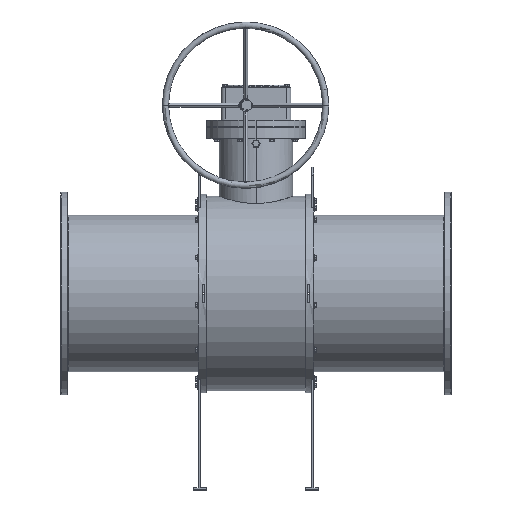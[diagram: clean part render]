
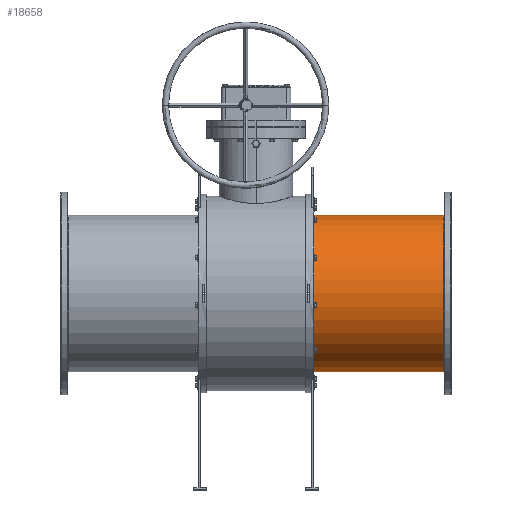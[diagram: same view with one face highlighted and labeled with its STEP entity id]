
A CAD part, top view. The second image highlights one B-rep face of the part: STEP entity #18658.
In plain terms, the highlighted cylindrical face has radius 377.2 mm (diameter 754.4 mm), a partial arc.
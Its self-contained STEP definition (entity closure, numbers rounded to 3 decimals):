
#12 = CYLINDRICAL_SURFACE ( 'NONE', #3679, 377.2 ) ;
#653 = AXIS2_PLACEMENT_3D ( 'NONE', #6183, #21345, #27316 ) ;
#970 = VERTEX_POINT ( 'NONE', #2728 ) ;
#994 = LINE ( 'NONE', #11958, #10687 ) ;
#1994 = EDGE_CURVE ( 'NONE', #11683, #970, #17988, .T. ) ;
#2112 = DIRECTION ( 'NONE',  ( -1., 0., 0. ) ) ;
#2728 = CARTESIAN_POINT ( 'NONE',  ( 903., 377.2, 0. ) ) ;
#3465 = CIRCLE ( 'NONE', #14115, 377.2 ) ;
#3679 = AXIS2_PLACEMENT_3D ( 'NONE', #6278, #2112, #16607 ) ;
#4800 = EDGE_CURVE ( 'NONE', #970, #22944, #994, .T. ) ;
#6183 = CARTESIAN_POINT ( 'NONE',  ( 903., 0., 0. ) ) ;
#6278 = CARTESIAN_POINT ( 'NONE',  ( -940., 0., 0. ) ) ;
#7632 = CARTESIAN_POINT ( 'NONE',  ( 277.5, 0., 0. ) ) ;
#8795 = ORIENTED_EDGE ( 'NONE', *, *, #14218, .T. ) ;
#9572 = CARTESIAN_POINT ( 'NONE',  ( 903., -377.2, 0. ) ) ;
#9930 = DIRECTION ( 'NONE',  ( -1., 0., 0. ) ) ;
#10181 = FACE_OUTER_BOUND ( 'NONE', #11786, .T. ) ;
#10687 = VECTOR ( 'NONE', #22540, 1000. ) ;
#11683 = VERTEX_POINT ( 'NONE', #9572 ) ;
#11786 = EDGE_LOOP ( 'NONE', ( #15426, #22086, #8795, #18102 ) ) ;
#11958 = CARTESIAN_POINT ( 'NONE',  ( -940., 377.2, 0. ) ) ;
#14115 = AXIS2_PLACEMENT_3D ( 'NONE', #7632, #16419, #24864 ) ;
#14218 = EDGE_CURVE ( 'NONE', #22944, #25276, #3465, .T. ) ;
#15320 = CARTESIAN_POINT ( 'NONE',  ( 277.5, 377.2, 0. ) ) ;
#15426 = ORIENTED_EDGE ( 'NONE', *, *, #1994, .T. ) ;
#16419 = DIRECTION ( 'NONE',  ( 1., 0., 0. ) ) ;
#16607 = DIRECTION ( 'NONE',  ( 0., -1., 0. ) ) ;
#17988 = CIRCLE ( 'NONE', #653, 377.2 ) ;
#18102 = ORIENTED_EDGE ( 'NONE', *, *, #20475, .F. ) ;
#18658 = ADVANCED_FACE ( 'NONE', ( #10181 ), #12, .T. ) ;
#20247 = CARTESIAN_POINT ( 'NONE',  ( -940., -377.2, 0. ) ) ;
#20475 = EDGE_CURVE ( 'NONE', #11683, #25276, #26905, .T. ) ;
#21345 = DIRECTION ( 'NONE',  ( -1., 0., 0. ) ) ;
#22086 = ORIENTED_EDGE ( 'NONE', *, *, #4800, .T. ) ;
#22540 = DIRECTION ( 'NONE',  ( -1., 0., 0. ) ) ;
#22937 = CARTESIAN_POINT ( 'NONE',  ( 277.5, -377.2, 0. ) ) ;
#22944 = VERTEX_POINT ( 'NONE', #15320 ) ;
#24864 = DIRECTION ( 'NONE',  ( 0., 0., -1. ) ) ;
#25276 = VERTEX_POINT ( 'NONE', #22937 ) ;
#25466 = VECTOR ( 'NONE', #9930, 1000. ) ;
#26905 = LINE ( 'NONE', #20247, #25466 ) ;
#27316 = DIRECTION ( 'NONE',  ( 0., 1., 0. ) ) ;
